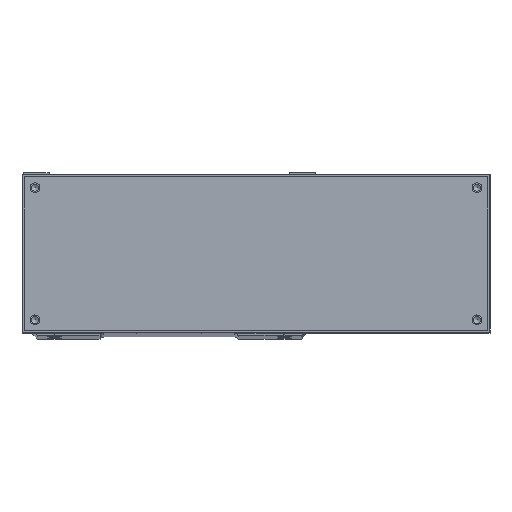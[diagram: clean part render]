
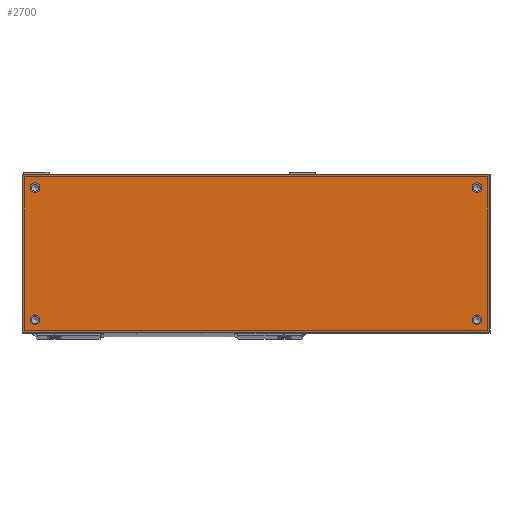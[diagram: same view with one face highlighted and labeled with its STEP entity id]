
A CAD part, top view. The second image highlights one B-rep face of the part: STEP entity #2700.
In plain terms, the highlighted planar face has unit normal (0, 0, 1).
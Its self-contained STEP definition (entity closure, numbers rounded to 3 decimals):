
#895=FACE_BOUND('',#4617,.T.);
#896=FACE_BOUND('',#4618,.T.);
#897=FACE_BOUND('',#4619,.T.);
#898=FACE_BOUND('',#4620,.T.);
#899=FACE_BOUND('',#4621,.T.);
#1973=CIRCLE('',#16387,2.25);
#1974=CIRCLE('',#16388,2.25);
#1975=CIRCLE('',#16389,2.25);
#1976=CIRCLE('',#16390,2.25);
#2700=ADVANCED_FACE('8',(#895,#896,#897,#898,#899),#3466,.F.);
#3466=PLANE('',#16391);
#4617=EDGE_LOOP('',(#6986));
#4618=EDGE_LOOP('',(#6987));
#4619=EDGE_LOOP('',(#6988));
#4620=EDGE_LOOP('',(#6989));
#4621=EDGE_LOOP('',(#6990,#6991,#6992,#6993));
#6986=ORIENTED_EDGE('',*,*,#12492,.F.);
#6987=ORIENTED_EDGE('',*,*,#12493,.F.);
#6988=ORIENTED_EDGE('',*,*,#12494,.F.);
#6989=ORIENTED_EDGE('',*,*,#12495,.F.);
#6990=ORIENTED_EDGE('',*,*,#12496,.F.);
#6991=ORIENTED_EDGE('',*,*,#12497,.F.);
#6992=ORIENTED_EDGE('',*,*,#12408,.F.);
#6993=ORIENTED_EDGE('',*,*,#12423,.F.);
#10641=VERTEX_POINT('',#24874);
#10642=VERTEX_POINT('',#24876);
#10649=VERTEX_POINT('',#24900);
#10680=VERTEX_POINT('',#25410);
#10681=VERTEX_POINT('',#25412);
#10682=VERTEX_POINT('',#25414);
#10683=VERTEX_POINT('',#25416);
#10684=VERTEX_POINT('',#25418);
#12408=EDGE_CURVE('',#10641,#10642,#14153,.T.);
#12423=EDGE_CURVE('',#10649,#10641,#14166,.T.);
#12492=EDGE_CURVE('',#10680,#10680,#1973,.T.);
#12493=EDGE_CURVE('',#10681,#10681,#1974,.T.);
#12494=EDGE_CURVE('',#10682,#10682,#1975,.T.);
#12495=EDGE_CURVE('',#10683,#10683,#1976,.T.);
#12496=EDGE_CURVE('',#10684,#10649,#14192,.T.);
#12497=EDGE_CURVE('',#10642,#10684,#14193,.T.);
#14153=LINE('',#24875,#15240);
#14166=LINE('',#24901,#15253);
#14192=LINE('',#25417,#15279);
#14193=LINE('',#25419,#15280);
#15240=VECTOR('',#19120,1.);
#15253=VECTOR('',#19143,1.);
#15279=VECTOR('',#19281,1.);
#15280=VECTOR('',#19282,1.);
#16387=AXIS2_PLACEMENT_3D('',#25409,#19273,#19274);
#16388=AXIS2_PLACEMENT_3D('',#25411,#19275,#19276);
#16389=AXIS2_PLACEMENT_3D('',#25413,#19277,#19278);
#16390=AXIS2_PLACEMENT_3D('',#25415,#19279,#19280);
#16391=AXIS2_PLACEMENT_3D('',#25420,#19283,#19284);
#19120=DIRECTION('',(0.,1.,0.));
#19143=DIRECTION('',(-1.,0.,0.));
#19273=DIRECTION('',(0.,0.,1.));
#19274=DIRECTION('',(-1.,0.,0.));
#19275=DIRECTION('',(0.,0.,1.));
#19276=DIRECTION('',(1.,0.,0.));
#19277=DIRECTION('',(0.,0.,1.));
#19278=DIRECTION('',(-1.,0.,0.));
#19279=DIRECTION('',(0.,0.,1.));
#19280=DIRECTION('',(1.,0.,0.));
#19281=DIRECTION('',(0.,-1.,0.));
#19282=DIRECTION('',(1.,0.,0.));
#19283=DIRECTION('',(0.,0.,-1.));
#19284=DIRECTION('',(1.,0.,0.));
#24874=CARTESIAN_POINT('',(-68.,0.,193.));
#24875=CARTESIAN_POINT('',(-68.,73.,193.));
#24876=CARTESIAN_POINT('',(-68.,73.,193.));
#24900=CARTESIAN_POINT('',(148.,0.,193.));
#24901=CARTESIAN_POINT('',(148.,0.,193.));
#25409=CARTESIAN_POINT('',(-62.,6.,193.));
#25410=CARTESIAN_POINT('',(-64.25,6.,193.));
#25411=CARTESIAN_POINT('',(142.,6.,193.));
#25412=CARTESIAN_POINT('',(144.25,6.,193.));
#25413=CARTESIAN_POINT('',(142.,67.,193.));
#25414=CARTESIAN_POINT('',(139.75,67.,193.));
#25415=CARTESIAN_POINT('',(-62.,67.,193.));
#25416=CARTESIAN_POINT('',(-59.75,67.,193.));
#25417=CARTESIAN_POINT('',(148.,73.,193.));
#25418=CARTESIAN_POINT('',(148.,73.,193.));
#25419=CARTESIAN_POINT('',(148.,73.,193.));
#25420=CARTESIAN_POINT('',(40.,36.5,193.));
